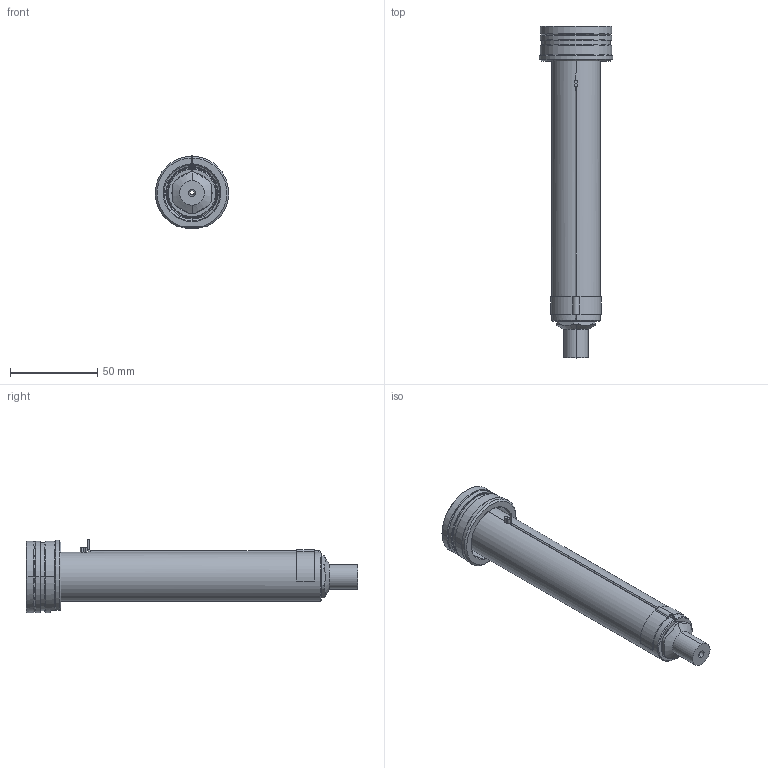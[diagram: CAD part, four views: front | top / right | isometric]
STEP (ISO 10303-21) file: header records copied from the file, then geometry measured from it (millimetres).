
FILE_DESCRIPTION((''),'2;1');
FILE_NAME('EO10_VG-FBE_WR_160_SW','2024-02-19T14:02:32',('sundharh'),(''),'CREO PARAMETRIC BY PTC INC, 2023154','CREO PARAMETRIC BY PTC INC, 2023154','');
FILE_SCHEMA(('CONFIG_CONTROL_DESIGN'));
Length unit declared in the file: millimetre
Products named in the file (1): EO10_VG-FBE_WR_160_SW
Bounding box: 41.85 x 190 x 42.02 mm (x, y, z)
Volume: 106026.1 mm3; surface area: 29042.1 mm2
Topology: 1 solids, 1 shells, 194 faces, 474 edges, 288 vertices
Faces by surface type: cylinder 71, plane 46, cone 39, torus 23, bspline 13, sphere 2
Entity records: 6634 total; most frequent: CARTESIAN_POINT 1982, DIRECTION 1037, ORIENTED_EDGE 940, EDGE_CURVE 470, AXIS2_PLACEMENT_3D 434, VERTEX_POINT 288, CIRCLE 253, EDGE_LOOP 210
